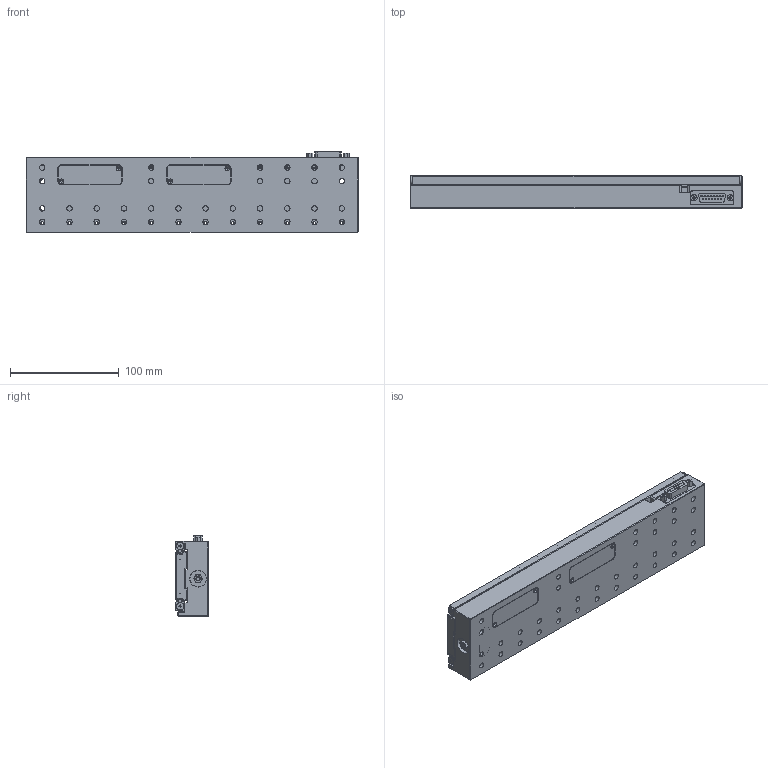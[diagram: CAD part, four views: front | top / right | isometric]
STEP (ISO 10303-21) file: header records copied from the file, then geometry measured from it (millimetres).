
FILE_DESCRIPTION (( 'STEP AP214' ), '1' );
FILE_NAME ('LS-200-xMCL.STEP', '2023-04-26T17:13:25', ( '' ), ( '' ), 'SwSTEP 2.0', 'SolidWorks 2020', '' );
FILE_SCHEMA (( 'AUTOMOTIVE_DESIGN' ));
Length unit declared in the file: inch
Products named in the file (1): LS-200-xMCL
Bounding box: 304.81 x 29.98 x 73.63 mm (x, y, z)
Surface area: 137818.1 mm2 (no closed solid volume)
Topology: 0 solids, 26 shells, 677 faces, 2281 edges, 1633 vertices
Faces by surface type: plane 341, cylinder 271, cone 55, torus 10
Full cylindrical faces by diameter (mm): 1.168 x15, 1.6 x4, 2.261 x8, 2.438 x4, 2.5 x16, 3.264 x18, 3.4 x4, 3.441 x1, 4 x2, 5 x58, 5.558 x24, 6.35 x1, 6.5 x4, 6.6 x4, 7.264 x4, 11 x4, 14.9 x1, 15 x1, 15.24 x1, 16.002 x1
Entity records: 28529 total; most frequent: CARTESIAN_POINT 7645, DIRECTION 4027, ORIENTED_EDGE 3285, EDGE_CURVE 2032, VERTEX_POINT 1575, AXIS2_PLACEMENT_3D 1466, EDGE_LOOP 1117, VECTOR 1095
